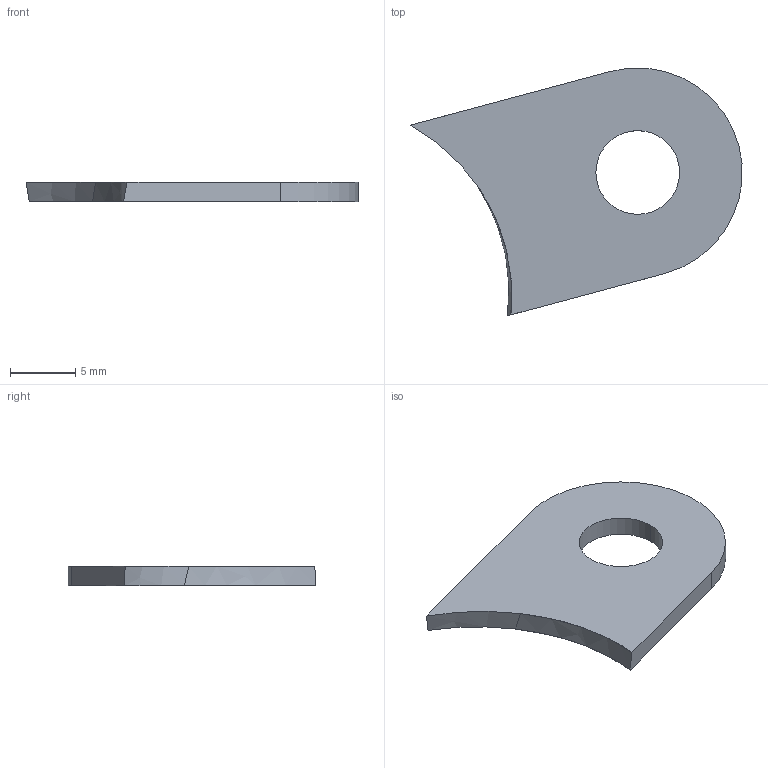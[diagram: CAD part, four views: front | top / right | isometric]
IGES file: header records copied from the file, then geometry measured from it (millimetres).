
Start section: START RECORD GO HERE.
Global section: file name: EN_17101 (Chape Admission Optimus 1).igs; native system: IBM CATIA IGES - CATIA Version 5 Release 19 ; preprocessor: CATIA Version 5 Release 19 ; author: Aimery SAULIERE; organization: MRY-987EC; date: 20200123.232744; units: millimetre
Bounding box: 25.37 x 18.92 x 1.5 mm (x, y, z)
Surface area: 667.1 mm2 (no closed solid volume)
Topology: 0 solids, 0 shells, 9 faces, 43 edges, 45 vertices
Faces by surface type: revolution 5, plane 4
